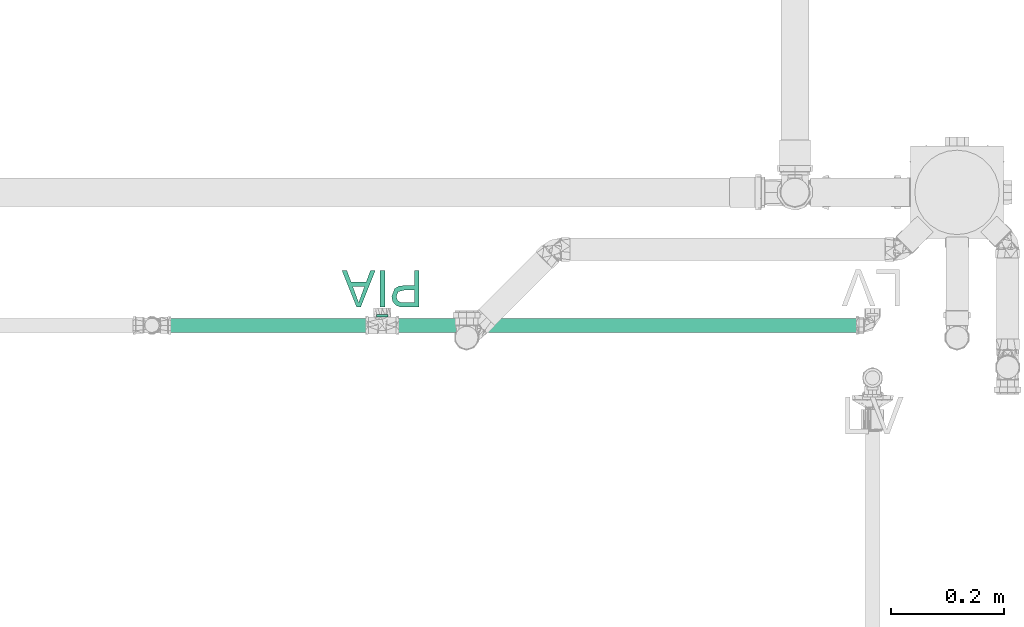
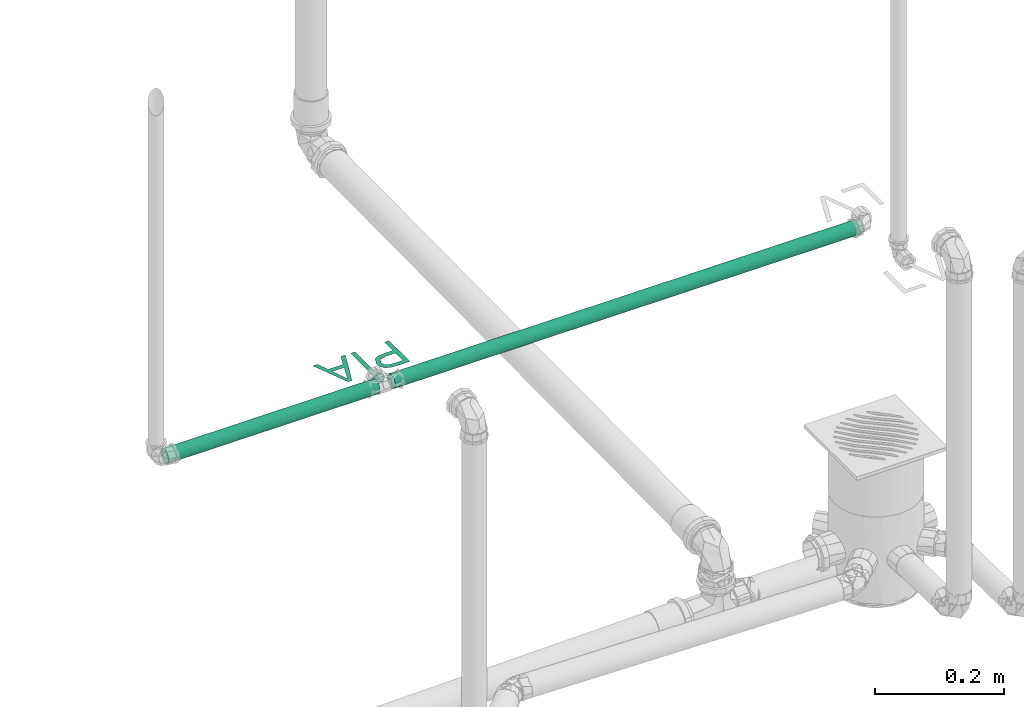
# One storey, part 252 of 589: 2 flow segments, 1 flow terminal.
"""IFC2X3 building model written with IfcOpenShell, lengths in millimetres."""

from ifc_helpers import new_model, entity, si_unit, converted_unit, derived_unit, direction, frame, frame_2d, origin, origin_2d_with_axis, place, context, subcontext, project, spatial, circle, extrude, face_set, surface_model, source, transform, mapped, material, type_object, type_shapes, element, save


model = new_model("IFC2X3")

# Units and contexts
model_context = context("Model", 3, precision=0.01, world=origin(), true_north=direction((6.123031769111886e-17, 1.0)))
body_context = subcontext(model_context, "Body", "Model", "MODEL_VIEW")
ifc_project = project(units=[si_unit("LENGTHUNIT", "METRE", prefix="MILLI"), si_unit("AREAUNIT", "SQUARE_METRE"), si_unit("VOLUMEUNIT", "CUBIC_METRE"), converted_unit("PLANEANGLEUNIT", "DEGREE", entity("IfcRatioMeasure", 0.017453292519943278), si_unit("PLANEANGLEUNIT", "RADIAN"), dimensions=[0, 0, 0, 0, 0, 0, 0]), si_unit("MASSUNIT", "GRAM", prefix="KILO"), derived_unit("MASSDENSITYUNIT", [(si_unit("MASSUNIT", "GRAM", prefix="KILO"), 1), (si_unit("LENGTHUNIT", "METRE"), -3)]), derived_unit("IONCONCENTRATIONUNIT", [(si_unit("MASSUNIT", "GRAM", prefix="KILO"), 1), (si_unit("LENGTHUNIT", "METRE"), -3)]), derived_unit("MOMENTOFINERTIAUNIT", [(si_unit("LENGTHUNIT", "METRE"), 4)]), si_unit("TIMEUNIT", "SECOND"), si_unit("FREQUENCYUNIT", "HERTZ"), si_unit("THERMODYNAMICTEMPERATUREUNIT", "DEGREE_CELSIUS"), derived_unit("THERMALTRANSMITTANCEUNIT", [(si_unit("MASSUNIT", "GRAM", prefix="KILO"), 1), (si_unit("THERMODYNAMICTEMPERATUREUNIT", "KELVIN"), -1), (si_unit("TIMEUNIT", "SECOND"), -3)]), derived_unit("THERMALCONDUCTANCEUNIT", [(si_unit("MASSUNIT", "GRAM", prefix="KILO"), 1), (si_unit("THERMODYNAMICTEMPERATUREUNIT", "KELVIN"), -1), (si_unit("TIMEUNIT", "SECOND"), -3), (si_unit("LENGTHUNIT", "METRE"), 1)]), derived_unit("VOLUMETRICFLOWRATEUNIT", [(si_unit("LENGTHUNIT", "METRE"), 3), (si_unit("TIMEUNIT", "SECOND"), -1)]), derived_unit("MASSFLOWRATEUNIT", [(si_unit("MASSUNIT", "GRAM", prefix="KILO"), 1), (si_unit("TIMEUNIT", "SECOND"), -1)]), derived_unit("ROTATIONALFREQUENCYUNIT", [(si_unit("TIMEUNIT", "SECOND"), -1)]), si_unit("ELECTRICCURRENTUNIT", "AMPERE"), si_unit("ELECTRICVOLTAGEUNIT", "VOLT"), si_unit("POWERUNIT", "WATT"), si_unit("FORCEUNIT", "NEWTON", prefix="KILO"), si_unit("ILLUMINANCEUNIT", "LUX"), si_unit("LUMINOUSFLUXUNIT", "LUMEN"), si_unit("LUMINOUSINTENSITYUNIT", "CANDELA"), derived_unit("USERDEFINED", [(si_unit("MASSUNIT", "GRAM", prefix="KILO"), -1), (si_unit("LENGTHUNIT", "METRE"), -2), (si_unit("TIMEUNIT", "SECOND"), 3), (si_unit("LUMINOUSFLUXUNIT", "LUMEN"), 1)]), derived_unit("USERDEFINED", [(si_unit("MASSUNIT", "GRAM", prefix="KILO"), 1), (si_unit("TIMEUNIT", "SECOND"), -3), (si_unit("LENGTHUNIT", "METRE"), 3), (si_unit("ELECTRICCURRENTUNIT", "AMPERE"), -2)]), derived_unit("SOUNDPOWERUNIT", [(si_unit("MASSUNIT", "GRAM", prefix="KILO"), 1), (si_unit("TIMEUNIT", "SECOND"), -3), (si_unit("LENGTHUNIT", "METRE"), 2)]), derived_unit("SOUNDPRESSUREUNIT", [(si_unit("MASSUNIT", "GRAM", prefix="KILO"), 1), (si_unit("LENGTHUNIT", "METRE"), -1), (si_unit("TIMEUNIT", "SECOND"), -2)]), derived_unit("LINEARVELOCITYUNIT", [(si_unit("LENGTHUNIT", "METRE"), 1), (si_unit("TIMEUNIT", "SECOND"), -1)]), si_unit("PRESSUREUNIT", "PASCAL"), derived_unit("USERDEFINED", [(si_unit("MASSUNIT", "GRAM", prefix="KILO"), 1), (si_unit("LENGTHUNIT", "METRE"), -2), (si_unit("TIMEUNIT", "SECOND"), -2)]), derived_unit("LINEARFORCEUNIT", [(si_unit("MASSUNIT", "GRAM", prefix="KILO"), 1), (si_unit("TIMEUNIT", "SECOND"), -2)]), derived_unit("PLANARFORCEUNIT", [(si_unit("MASSUNIT", "GRAM", prefix="KILO"), 1), (si_unit("LENGTHUNIT", "METRE"), -1), (si_unit("TIMEUNIT", "SECOND"), -2)]), derived_unit("SPECIFICHEATCAPACITYUNIT", [(si_unit("THERMODYNAMICTEMPERATUREUNIT", "KELVIN"), -1), (si_unit("LENGTHUNIT", "METRE"), 2), (si_unit("TIMEUNIT", "SECOND"), -2)]), derived_unit("HEATINGVALUEUNIT", [(si_unit("LENGTHUNIT", "METRE"), 2), (si_unit("TIMEUNIT", "SECOND"), -2)]), derived_unit("VAPORPERMEABILITYUNIT", [(si_unit("LENGTHUNIT", "METRE"), -1), (si_unit("TIMEUNIT", "SECOND"), 1)]), derived_unit("DYNAMICVISCOSITYUNIT", [(si_unit("MASSUNIT", "GRAM", prefix="KILO"), 1), (si_unit("TIMEUNIT", "SECOND"), -1), (si_unit("LENGTHUNIT", "METRE"), -1)]), derived_unit("THERMALEXPANSIONCOEFFICIENTUNIT", [(si_unit("THERMODYNAMICTEMPERATUREUNIT", "KELVIN"), -1)]), derived_unit("MODULUSOFELASTICITYUNIT", [(si_unit("MASSUNIT", "GRAM", prefix="KILO"), 1), (si_unit("LENGTHUNIT", "METRE"), -1), (si_unit("TIMEUNIT", "SECOND"), -2)]), derived_unit("ISOTHERMALMOISTURECAPACITYUNIT", [(si_unit("LENGTHUNIT", "METRE"), 3), (si_unit("MASSUNIT", "GRAM", prefix="KILO"), -1)]), derived_unit("MOISTUREDIFFUSIVITYUNIT", [(si_unit("TIMEUNIT", "SECOND"), -1), (si_unit("LENGTHUNIT", "METRE"), 2)])], contexts=[model_context])

# Site, building, storey
site_placement = place(None, origin())
site = spatial("IfcSite", under=ifc_project, at=site_placement, Name="Default", CompositionType="ELEMENT")
building_placement = place(site_placement, origin())
building = spatial("IfcBuilding", under=site, at=building_placement, CompositionType="ELEMENT")
storey_placement = place(building_placement, frame((0.0, 0.0, 100.0)))
storey = spatial("IfcBuildingStorey", under=building, at=storey_placement, Name="TÉRREO", CompositionType="ELEMENT", Elevation=100.0)

# Flow segments
pipe_segment_type = type_object("IfcPipeSegmentType", Name="Tipos de tubos:PVC Marrom Soldável", PredefinedType="NOTDEFINED")
flow_segment_1_placement = place(storey_placement, origin())
element("IfcFlowSegment", 1, at=flow_segment_1_placement, inside=storey, type_object=pipe_segment_type, Name="Tipos de tubos:PVC Marrom Soldável", ObjectType="Tipos de tubos:PVC Marrom Soldável", context=body_context, shape_type="SweptSolid", body=[
    extrude(circle(Radius=12.5, at=frame_2d((0.0, -1.353583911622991e-13), x_axis=(1.0, 0.0))), frame((1601.6285206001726, 3119.2147625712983, 600.0), z_axis=(1.0, 0.0, 0.0), x_axis=(0.0, -1.0, 0.0)), (0.0, 0.0, 1.0), 841.5559775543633),
])
flow_segment_2_placement = place(storey_placement, origin())
element("IfcFlowSegment", 2, at=flow_segment_2_placement, inside=storey, type_object=pipe_segment_type, Name="Tipos de tubos:PVC Marrom Soldável", ObjectType="Tipos de tubos:PVC Marrom Soldável", context=body_context, shape_type="SweptSolid", body=[
    extrude(circle(Radius=12.5, at=origin_2d_with_axis()), frame((1194.5061156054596, 3119.2147625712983, 600.0), z_axis=(1.0, 0.0, 0.0), x_axis=(0.0, -1.0, 0.0)), (0.0, 0.0, 1.0), 380.32240499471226),
])

# Flow terminal
ifc_material = material(Name="<Unnamed>")
distribution_element_type = type_object("IfcDistributionElementType", Name="Hidráulica_Ponto de Utilização_Uso Provável_Rodrigo MEP:Pia com torneira ou misturador(Peso 0,7)", material=ifc_material)
shared_shape = source(origin(), body_context, "Body", "SurfaceModel", [
    surface_model("IfcFaceBasedSurfaceModel", [(0.0, 0.0, 11.595272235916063), (8.162075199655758, 0.0, 11.595272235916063), (8.162075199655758, 26.52674439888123, 11.595272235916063), (24.757232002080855, 26.52674439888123, 11.595272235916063), (36.352719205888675, 27.96945495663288, 11.595272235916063), (43.7197094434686, 32.29758662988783, 11.595272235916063), (48.97245119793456, 46.405861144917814, 11.595272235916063), (47.02758171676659, 55.30921856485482, 11.595272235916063), (41.88643083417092, 61.62207360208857, 11.595272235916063), (33.95550815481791, 64.67488102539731, 11.595272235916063), (24.199277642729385, 65.2966015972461, 11.595272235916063), (0.0, 65.2966015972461, 11.595272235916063), (8.162075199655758, 34.68881959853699, 11.595272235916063), (8.162075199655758, 57.13452639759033, 11.595272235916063), (25.044179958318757, 57.13452639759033, 11.595272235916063), (33.20625515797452, 56.57657203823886, 11.595272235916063), (38.71406176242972, 52.878131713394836, 11.595272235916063), (40.81037599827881, 46.11891318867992, 11.595272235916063), (37.25540965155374, 37.685831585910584, 11.595272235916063), (25.235478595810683, 34.68881959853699, 11.595272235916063), (61.21556399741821, 0.0, 11.595272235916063), (69.37763919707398, 0.0, 11.595272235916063), (69.37763919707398, 65.2966015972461, 11.595272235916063), (61.21556399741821, 65.2966015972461, 11.595272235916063), (78.0976687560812, 0.0, 11.595272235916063), (86.72204899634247, 0.0, 11.595272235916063), (94.18269585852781, 20.405187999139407, 11.595272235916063), (121.07609597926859, 20.405187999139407, 11.595272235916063), (128.55268439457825, 0.0, 11.595272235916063), (137.17706463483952, 0.0, 11.595272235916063), (111.11262527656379, 65.2966015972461, 11.595272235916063), (104.16210811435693, 65.2966015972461, 11.595272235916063), (97.17970784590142, 28.567263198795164, 11.595272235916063), (103.5722706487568, 46.02326386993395, 11.595272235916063), (107.63736669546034, 57.13452639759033, 11.595272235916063), (112.21259244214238, 44.62040719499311, 11.595272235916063), (118.0950255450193, 28.567263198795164, 11.595272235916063), (55.806731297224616, 78.06704158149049, 11.595272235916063), (56.14747303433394, 78.06704158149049, 14.18346268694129), (57.14647725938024, 78.06704158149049, 16.595272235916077), (58.735663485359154, 78.06704158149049, 18.666340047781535), (60.80673129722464, 78.06704158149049, 20.255526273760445), (63.218540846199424, 78.06704158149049, 21.254530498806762), (65.80673129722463, 78.06704158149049, 21.59527223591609), (68.39492174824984, 78.06704158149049, 21.254530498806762), (70.80673129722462, 78.06704158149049, 20.255526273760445), (72.87779910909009, 78.06704158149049, 18.666340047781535), (74.46698533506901, 78.06704158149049, 16.595272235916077), (75.4659895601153, 78.06704158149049, 14.18346268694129), (75.80673129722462, 78.06704158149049, 11.595272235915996), (75.46598956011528, 78.06704158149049, 9.007081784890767), (74.46698533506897, 78.06704158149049, 6.595272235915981), (72.87779910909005, 78.06704158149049, 4.524204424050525), (70.80673129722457, 78.06704158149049, 2.9350181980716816), (68.39492174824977, 78.06704158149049, 1.936013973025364), (65.80673129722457, 78.06704158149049, 1.5952722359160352), (63.218540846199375, 78.06704158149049, 1.936013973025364), (60.80673129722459, 78.06704158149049, 2.9350181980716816), (58.73566348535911, 78.06704158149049, 4.524204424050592), (57.14647725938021, 78.06704158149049, 6.595272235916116), (56.14747303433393, 78.06704158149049, 9.007081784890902), (55.806731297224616, 83.06704158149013, 11.595272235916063), (56.14747303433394, 83.06704158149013, 14.18346268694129), (57.14647725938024, 83.06704158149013, 16.595272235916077), (58.735663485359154, 83.06704158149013, 18.666340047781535), (60.80673129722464, 83.06704158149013, 20.255526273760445), (63.218540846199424, 83.06704158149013, 21.254530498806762), (65.80673129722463, 83.06704158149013, 21.59527223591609), (68.39492174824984, 83.06704158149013, 21.254530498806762), (70.80673129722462, 83.06704158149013, 20.255526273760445), (72.87779910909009, 83.06704158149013, 18.666340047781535), (74.46698533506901, 83.06704158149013, 16.595272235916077), (75.4659895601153, 83.06704158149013, 14.18346268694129), (75.80673129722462, 83.06704158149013, 11.595272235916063), (75.46598956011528, 83.06704158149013, 9.007081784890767), (74.46698533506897, 83.06704158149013, 6.595272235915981), (72.87779910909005, 83.06704158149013, 4.524204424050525), (70.80673129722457, 83.06704158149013, 2.9350181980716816), (68.39492174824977, 83.06704158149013, 1.936013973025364), (65.80673129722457, 83.06704158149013, 1.5952722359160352), (63.218540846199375, 83.06704158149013, 1.936013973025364), (60.80673129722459, 83.06704158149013, 2.9350181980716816), (58.73566348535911, 83.06704158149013, 4.524204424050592), (57.14647725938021, 83.06704158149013, 6.595272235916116), (56.14747303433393, 83.06704158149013, 9.007081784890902)], [face_set([[[0, 1, 2, 3, 4, 5, 6, 7, 8, 9, 10, 11], [12, 13, 14, 15, 16, 17, 18, 19]], [[20, 21, 22, 23]], [[24, 25, 26, 27, 28, 29, 30, 31], [32, 33, 34, 35, 36]]]), face_set([[[37, 38, 39, 40, 41, 42, 43, 44, 45, 46, 47, 48, 49, 50, 51, 52, 53, 54, 55, 56, 57, 58, 59, 60]], [[61, 62, 63, 64, 65, 66, 67, 68, 69, 70, 71, 72, 73, 74, 75, 76, 77, 78, 79, 80, 81, 82, 83, 84]], [[61, 84, 60, 37]], [[84, 83, 59, 60]], [[82, 81, 57, 58]], [[83, 82, 58, 59]], [[81, 80, 56, 57]], [[55, 56, 80, 79]], [[79, 78, 54, 55]], [[78, 77, 53, 54]], [[76, 75, 51, 52]], [[77, 76, 52, 53]], [[75, 74, 50, 51]], [[49, 50, 74, 73]], [[73, 72, 48, 49]], [[72, 71, 47, 48]], [[70, 69, 45, 46]], [[71, 70, 46, 47]], [[69, 68, 44, 45]], [[43, 44, 68, 67]], [[67, 66, 42, 43]], [[66, 65, 41, 42]], [[64, 63, 39, 40]], [[65, 64, 40, 41]], [[63, 62, 38, 39]], [[37, 38, 62, 61]]])]),
])
type_shapes(distribution_element_type, [shared_shape])
flow_terminal_placement = place(storey_placement, frame((1654.0352518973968, 3216.6818041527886, 588.4047277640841), z_axis=(0.0, 0.0, 1.0), x_axis=(-1.0, 0.0, 0.0)))
element("IfcFlowTerminal", 3, at=flow_terminal_placement, inside=storey, type_object=distribution_element_type, material=ifc_material, Name="Hidráulica_Ponto de Utilização_Uso Provável_Rodrigo MEP:Pia com torneira ou misturador(Peso 0,7)", ObjectType="Hidráulica_Ponto de Utilização_Uso Provável_Rodrigo MEP:Pia com torneira ou misturador(Peso 0,7)", context=body_context, shape_type="MappedRepresentation", body=[
    mapped(shared_shape, transform((0.0, 0.0, 0.0), scale=1.0)),
])

save(model, "model.ifc")
